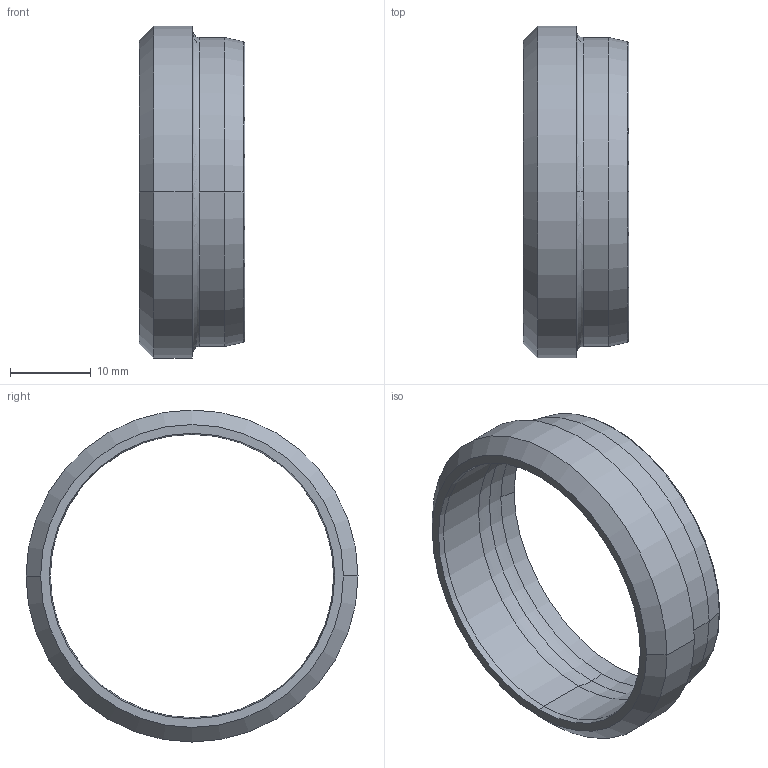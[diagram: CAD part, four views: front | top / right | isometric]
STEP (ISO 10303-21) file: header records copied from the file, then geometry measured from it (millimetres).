
FILE_DESCRIPTION((''),'2;1');
FILE_NAME('100112.stp','2006-03-06T15:06:43',('Dario Falcomer'),('CAST S.p.A.'),'AutoCAD STEP 2000i','AutoCAD 2000i',', , ');
FILE_SCHEMA(('CONFIG_CONTROL_DESIGN'));
Length unit declared in the file: millimetre
Products named in the file (2): 100112.0; 1001ESTERNO#0
Assembly tree (1 placements, depth 2):
  100112.0
    1001ESTERNO#0
Bounding box: 13.07 x 41 x 41 mm (x, y, z)
Volume: 3100 mm3; surface area: 3568.9 mm2
Topology: 1 solids, 1 shells, 30 faces, 71 edges, 45 vertices
Faces by surface type: cone 8, bspline 6, torus 6, cylinder 6, plane 4
Entity records: 1249 total; most frequent: CARTESIAN_POINT 412, DIRECTION 180, ORIENTED_EDGE 142, AXIS2_PLACEMENT_3D 83, EDGE_CURVE 71, CIRCLE 57, VERTEX_POINT 45, EDGE_LOOP 34
